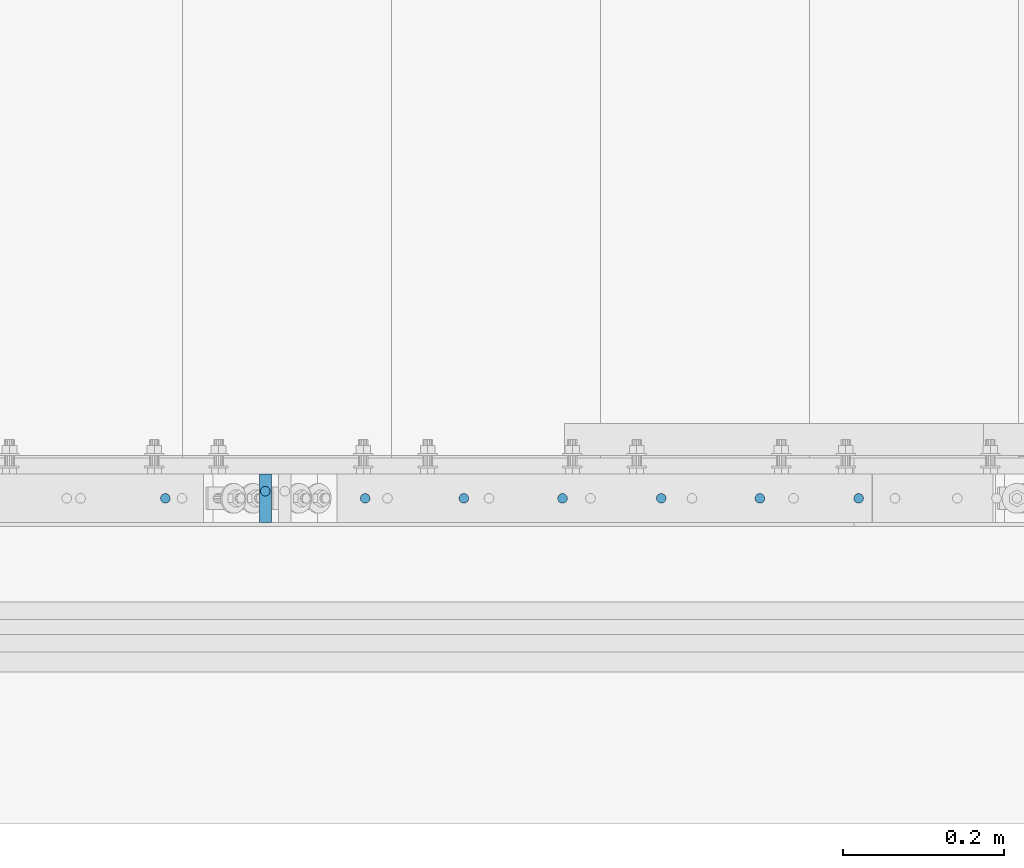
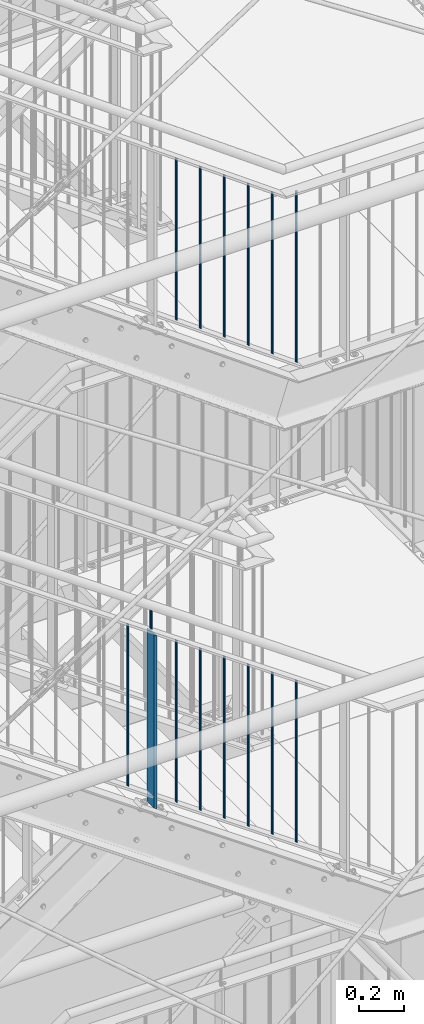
# One storey, part 40 of 831: 15 columns.
"""IFC2X3 building model written with IfcOpenShell, lengths in millimetres."""

from ifc_helpers import new_model, entity, si_unit, converted_unit, frame, origin, origin_with_axes, origin_2d, place, context, project, spatial, rectangle, circle, extrude, clip, halfspace, material, element, save


model = new_model("IFC2X3")

# Units and contexts
model_context = context("Model", 3, precision=1e-09, world=origin_with_axes())
ifc_project = project(units=[si_unit("LENGTHUNIT", "METRE", prefix="MILLI"), si_unit("AREAUNIT", "SQUARE_METRE"), si_unit("VOLUMEUNIT", "CUBIC_METRE"), converted_unit("PLANEANGLEUNIT", "DEGREE", entity("IfcPlaneAngleMeasure", 0.01745329), si_unit("PLANEANGLEUNIT", "RADIAN"), dimensions=[0, 0, 0, 0, 0, 0, 0])], contexts=[model_context])

# Site, building, storey
site_placement = place(None, origin_with_axes())
site = spatial("IfcSite", under=ifc_project, at=site_placement, Name="Site", CompositionType="ELEMENT")
building_placement = place(site_placement, origin_with_axes())
building = spatial("IfcBuilding", under=site, at=building_placement, Name="Struktur 1", CompositionType="ELEMENT")
storey_placement = place(building_placement, origin_with_axes())
storey = spatial("IfcBuildingStorey", under=building, at=storey_placement, Name="Default Storey", CompositionType="ELEMENT", Elevation=0.0)

# Columns
ifc_material = material(Name="S235JR")
column_1_placement = place(None, frame((6379.791974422, 4526.736971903, 7556.035866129), z_axis=(0.0, 0.0, 1.0), x_axis=(-1.0, 0.0, 0.0)))
element("IfcColumn", 1, at=column_1_placement, inside=storey, material=ifc_material, Name="Railing_Post_Stair#10", ObjectType="Railing_Post_Stair#10", context=model_context, shape_type="Clipping", body=[
    clip(clip(extrude(rectangle(XDim=15.0, YDim=60.0, at=origin_2d()), origin(), (0.0, 0.0, -1.0), 1013.014378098), halfspace(frame((1173.311952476, 4526.736971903, -150.331487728), z_axis=(-0.57512827, 0.0, 0.818063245), x_axis=(0.0, -1.0, 0.0)), True)), halfspace(frame((732.268371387, 4526.736971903, 477.009511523), z_axis=(0.57512827, 0.0, -0.818063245), x_axis=(0.0, 1.0, 0.0)), True)),
])
column_2_placement = place(None, frame((7117.792093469, 4526.736971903, 7009.766681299), z_axis=(0.0, 0.0, 1.0), x_axis=(-1.0, 0.0, 0.0)))
element("IfcColumn", 2, at=column_2_placement, inside=storey, material=ifc_material, Name="Railing_Picket_Stair#63", ObjectType="Railing_Picket_Stair#63", context=model_context, shape_type="Clipping", body=[
    clip(clip(extrude(circle(Radius=6.0, at=origin_2d()), origin(), (0.0, 0.0, -1.0), 897.037988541), halfspace(frame((1470.268490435, 4526.736971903, 1023.278696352), z_axis=(0.57512827, 0.0, -0.818063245), x_axis=(0.0, 1.0, 0.0)), True)), halfspace(frame((1882.555658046, 4526.736971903, 436.840859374), z_axis=(-0.57512827, 0.0, 0.818063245), x_axis=(0.0, -1.0, 0.0)), True)),
])
column_3_placement = place(None, frame((6995.04206966, 4526.736971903, 7096.064420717), z_axis=(0.0, 0.0, 1.0), x_axis=(-1.0, 0.0, 0.0)))
element("IfcColumn", 3, at=column_3_placement, inside=storey, material=ifc_material, Name="Railing_Picket_Stair#64", ObjectType="Railing_Picket_Stair#64", context=model_context, shape_type="Clipping", body=[
    clip(clip(extrude(circle(Radius=6.0, at=origin_2d()), origin(), (0.0, 0.0, -1.0), 897.037988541), halfspace(frame((1347.518466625, 4526.736971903, 936.980956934), z_axis=(0.57512827, 0.0, -0.818063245), x_axis=(0.0, 1.0, 0.0)), True)), halfspace(frame((1759.805634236, 4526.736971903, 350.543119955), z_axis=(-0.57512827, 0.0, 0.818063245), x_axis=(0.0, -1.0, 0.0)), True)),
])
column_4_placement = place(None, frame((6872.29204585, 4526.736971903, 7182.362160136), z_axis=(0.0, 0.0, 1.0), x_axis=(-1.0, 0.0, 0.0)))
element("IfcColumn", 4, at=column_4_placement, inside=storey, material=ifc_material, Name="Railing_Picket_Stair#65", ObjectType="Railing_Picket_Stair#65", context=model_context, shape_type="Clipping", body=[
    clip(clip(extrude(circle(Radius=6.0, at=origin_2d()), origin(), (0.0, 0.0, -1.0), 897.037988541), halfspace(frame((1224.768442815, 4526.736971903, 850.683217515), z_axis=(0.57512827, 0.0, -0.818063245), x_axis=(0.0, 1.0, 0.0)), True)), halfspace(frame((1637.055610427, 4526.736971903, 264.245380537), z_axis=(-0.57512827, 0.0, 0.818063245), x_axis=(0.0, -1.0, 0.0)), True)),
])
column_5_placement = place(None, frame((6749.542022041, 4526.736971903, 7268.659899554), z_axis=(0.0, 0.0, 1.0), x_axis=(-1.0, 0.0, 0.0)))
element("IfcColumn", 5, at=column_5_placement, inside=storey, material=ifc_material, Name="Railing_Picket_Stair#66", ObjectType="Railing_Picket_Stair#66", context=model_context, shape_type="Clipping", body=[
    clip(clip(extrude(circle(Radius=6.0, at=origin_2d()), origin(), (0.0, 0.0, -1.0), 897.037988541), halfspace(frame((1102.018419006, 4526.736971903, 764.385478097), z_axis=(0.57512827, 0.0, -0.818063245), x_axis=(0.0, 1.0, 0.0)), True)), halfspace(frame((1514.305586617, 4526.736971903, 177.947641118), z_axis=(-0.57512827, 0.0, 0.818063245), x_axis=(0.0, -1.0, 0.0)), True)),
])
column_6_placement = place(None, frame((6626.791998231, 4526.736971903, 7354.957638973), z_axis=(0.0, 0.0, 1.0), x_axis=(-1.0, 0.0, 0.0)))
element("IfcColumn", 6, at=column_6_placement, inside=storey, material=ifc_material, Name="Railing_Picket_Stair#67", ObjectType="Railing_Picket_Stair#67", context=model_context, shape_type="Clipping", body=[
    clip(clip(extrude(circle(Radius=6.0, at=origin_2d()), origin(), (0.0, 0.0, -1.0), 897.037988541), halfspace(frame((979.268395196, 4526.736971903, 678.087738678), z_axis=(0.57512827, 0.0, -0.818063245), x_axis=(0.0, 1.0, 0.0)), True)), halfspace(frame((1391.555562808, 4526.736971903, 91.6499017), z_axis=(-0.57512827, 0.0, 0.818063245), x_axis=(0.0, -1.0, 0.0)), True)),
])
column_7_placement = place(None, frame((6504.041974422, 4526.736971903, 7441.255378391), z_axis=(0.0, 0.0, 1.0), x_axis=(-1.0, 0.0, 0.0)))
element("IfcColumn", 7, at=column_7_placement, inside=storey, material=ifc_material, Name="Railing_Picket_Stair#68", ObjectType="Railing_Picket_Stair#68", context=model_context, shape_type="Clipping", body=[
    clip(clip(extrude(circle(Radius=6.0, at=origin_2d()), origin(), (0.0, 0.0, -1.0), 897.037988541), halfspace(frame((856.518371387, 4526.736971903, 591.78999926), z_axis=(0.57512827, 0.0, -0.818063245), x_axis=(0.0, 1.0, 0.0)), True)), halfspace(frame((1268.805538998, 4526.736971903, 5.352162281), z_axis=(-0.57512827, 0.0, 0.818063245), x_axis=(0.0, -1.0, 0.0)), True)),
])
column_8_placement = place(None, frame((6255.541974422, 4526.736971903, 7615.959933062), z_axis=(0.0, 0.0, 1.0), x_axis=(-1.0, 0.0, 0.0)))
element("IfcColumn", 8, at=column_8_placement, inside=storey, material=ifc_material, Name="Railing_Picket_Stair#69", ObjectType="Railing_Picket_Stair#69", context=model_context, shape_type="Clipping", body=[
    clip(clip(extrude(circle(Radius=6.0, at=origin_2d()), origin(), (0.0, 0.0, -1.0), 897.037988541), halfspace(frame((608.018371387, 4526.736971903, 417.085444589), z_axis=(0.57512827, 0.0, -0.818063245), x_axis=(0.0, 1.0, 0.0)), True)), halfspace(frame((1020.305538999, 4526.736971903, -169.352392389), z_axis=(-0.57512827, 0.0, 0.818063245), x_axis=(0.0, -1.0, 0.0)), True)),
])
column_9_placement = place(None, frame((6379.791974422, 4535.536971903, 7640.831649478), z_axis=(0.0, 0.0, 1.0), x_axis=(0.0, 1.0, 0.0)))
element("IfcColumn", 9, at=column_9_placement, inside=storey, material=ifc_material, Name="Bar#10", ObjectType="Bar#10", context=model_context, shape_type="Clipping", body=[
    clip(clip(extrude(circle(Radius=6.0, at=origin_2d()), origin(), (0.0, 0.0, -1.0), 120.744805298), halfspace(frame((-4535.536971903, 679.467958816, 467.317107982), z_axis=(0.0, 0.57512827, -0.818063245), x_axis=(-1.0, 0.0, 0.0)), True)), halfspace(frame((-4535.536971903, 726.515938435, 400.395996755), z_axis=(0.0, -0.57512827, 0.818063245), x_axis=(1.0, 0.0, 0.0)), True)),
])
column_10_placement = place(None, frame((7117.792093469, 4526.736971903, 9644.8), z_axis=(0.0, 0.0, 1.0), x_axis=(-1.0, 0.0, 0.0)))
element("IfcColumn", 10, at=column_10_placement, inside=storey, material=ifc_material, Name="Railing_Picket_Stair#63", ObjectType="Railing_Picket_Stair#63", context=model_context, shape_type="Clipping", body=[
    clip(extrude(circle(Radius=6.0, at=origin_2d()), origin(), (0.0, 0.0, -1.0), 937.053329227), halfspace(frame((534.428419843, 4526.736971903, -540.14811094), z_axis=(-0.585945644, 0.0, 0.810350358), x_axis=(0.0, -1.0, 0.0)), True)),
])
column_11_placement = place(None, frame((6995.04206966, 4526.736971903, 9692.562379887), z_axis=(0.0, 0.0, 1.0), x_axis=(-1.0, 0.0, 0.0)))
element("IfcColumn", 11, at=column_11_placement, inside=storey, material=ifc_material, Name="Railing_Picket_Stair#64", ObjectType="Railing_Picket_Stair#64", context=model_context, shape_type="Clipping", body=[
    clip(clip(extrude(circle(Radius=6.0, at=origin_2d()), origin(), (0.0, 0.0, -1.0), 896.057999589), halfspace(frame((-3.843994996, 4526.736971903, -13.251864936), z_axis=(0.585945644, 0.0, -0.810350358), x_axis=(0.0, 1.0, 0.0)), True)), halfspace(frame((411.678396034, 4526.736971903, -587.910490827), z_axis=(-0.585945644, 0.0, 0.810350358), x_axis=(0.0, -1.0, 0.0)), True)),
])
column_12_placement = place(None, frame((6872.29204585, 4526.736971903, 9781.32008941), z_axis=(0.0, 0.0, 1.0), x_axis=(-1.0, 0.0, 0.0)))
element("IfcColumn", 12, at=column_12_placement, inside=storey, material=ifc_material, Name="Railing_Picket_Stair#65", ObjectType="Railing_Picket_Stair#65", context=model_context, shape_type="Clipping", body=[
    clip(clip(extrude(circle(Radius=6.0, at=origin_2d()), origin(), (0.0, 0.0, -1.0), 896.057999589), halfspace(frame((-126.594018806, 4526.736971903, -102.00957446), z_axis=(0.585945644, 0.0, -0.810350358), x_axis=(0.0, 1.0, 0.0)), True)), halfspace(frame((288.928372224, 4526.736971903, -676.66820035), z_axis=(-0.585945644, 0.0, 0.810350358), x_axis=(0.0, -1.0, 0.0)), True)),
])
column_13_placement = place(None, frame((6749.542022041, 4526.736971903, 9870.077798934), z_axis=(0.0, 0.0, 1.0), x_axis=(-1.0, 0.0, 0.0)))
element("IfcColumn", 13, at=column_13_placement, inside=storey, material=ifc_material, Name="Railing_Picket_Stair#66", ObjectType="Railing_Picket_Stair#66", context=model_context, shape_type="Clipping", body=[
    clip(clip(extrude(circle(Radius=6.0, at=origin_2d()), origin(), (0.0, 0.0, -1.0), 896.057999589), halfspace(frame((-249.344042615, 4526.736971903, -190.767283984), z_axis=(0.585945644, 0.0, -0.810350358), x_axis=(0.0, 1.0, 0.0)), True)), halfspace(frame((166.178348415, 4526.736971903, -765.425909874), z_axis=(-0.585945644, 0.0, 0.810350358), x_axis=(0.0, -1.0, 0.0)), True)),
])
column_14_placement = place(None, frame((6626.791998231, 4526.736971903, 9958.835508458), z_axis=(0.0, 0.0, 1.0), x_axis=(-1.0, 0.0, 0.0)))
element("IfcColumn", 14, at=column_14_placement, inside=storey, material=ifc_material, Name="Railing_Picket_Stair#67", ObjectType="Railing_Picket_Stair#67", context=model_context, shape_type="Clipping", body=[
    clip(clip(extrude(circle(Radius=6.0, at=origin_2d()), origin(), (0.0, 0.0, -1.0), 896.05799959), halfspace(frame((-372.094066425, 4526.736971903, -279.524993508), z_axis=(0.585945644, 0.0, -0.810350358), x_axis=(0.0, 1.0, 0.0)), True)), halfspace(frame((43.428324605, 4526.736971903, -854.183619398), z_axis=(-0.585945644, 0.0, 0.810350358), x_axis=(0.0, -1.0, 0.0)), True)),
])
column_15_placement = place(None, frame((6504.041974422, 4526.736971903, 10047.593217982), z_axis=(0.0, 0.0, 1.0), x_axis=(-1.0, 0.0, 0.0)))
element("IfcColumn", 15, at=column_15_placement, inside=storey, material=ifc_material, Name="Railing_Picket_Stair#68", ObjectType="Railing_Picket_Stair#68", context=model_context, shape_type="Clipping", body=[
    clip(clip(extrude(circle(Radius=6.0, at=origin_2d()), origin(), (0.0, 0.0, -1.0), 896.05799959), halfspace(frame((-494.844090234, 4526.736971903, -368.282703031), z_axis=(0.585945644, 0.0, -0.810350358), x_axis=(0.0, 1.0, 0.0)), True)), halfspace(frame((-79.321699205, 4526.736971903, -942.941328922), z_axis=(-0.585945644, 0.0, 0.810350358), x_axis=(0.0, -1.0, 0.0)), True)),
])

save(model, "model.ifc")
